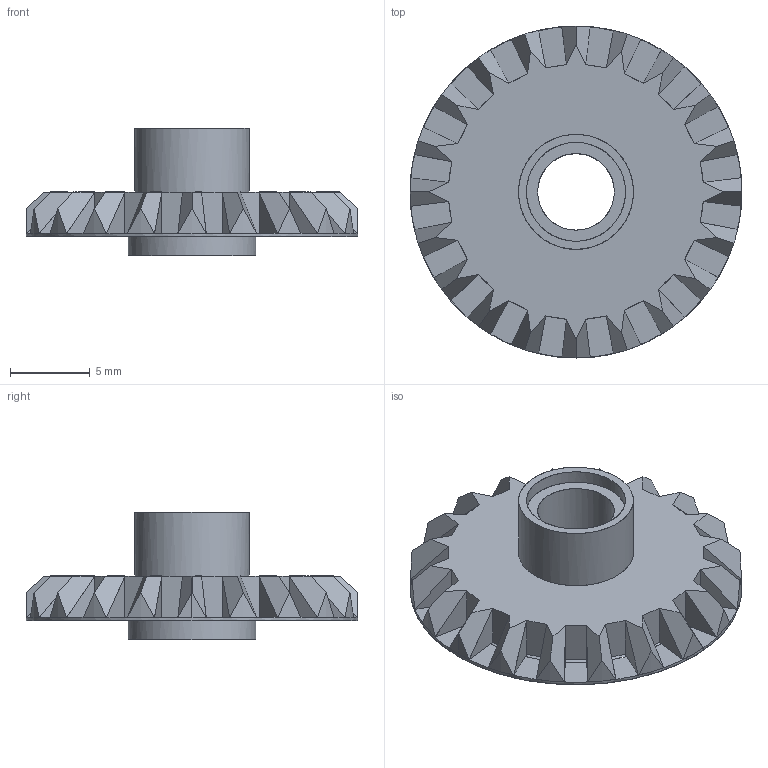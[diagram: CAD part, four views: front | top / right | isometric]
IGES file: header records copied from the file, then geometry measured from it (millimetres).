
Start section: C
Global section: file name: ClGray_4558690_JC.iges; native system: By Siemens PLM Incorporated; preprocessor: XPlus GENERIC/IGES 26.1.183; author: Author; organization: Title; date: 20250721.235656; units: millimetre
Bounding box: 20.8 x 20.8 x 8 mm (x, y, z)
Surface area: 1221.5 mm2 (no closed solid volume)
Topology: 0 solids, 0 shells, 195 faces, 868 edges, 868 vertices
Faces by surface type: bspline 195
